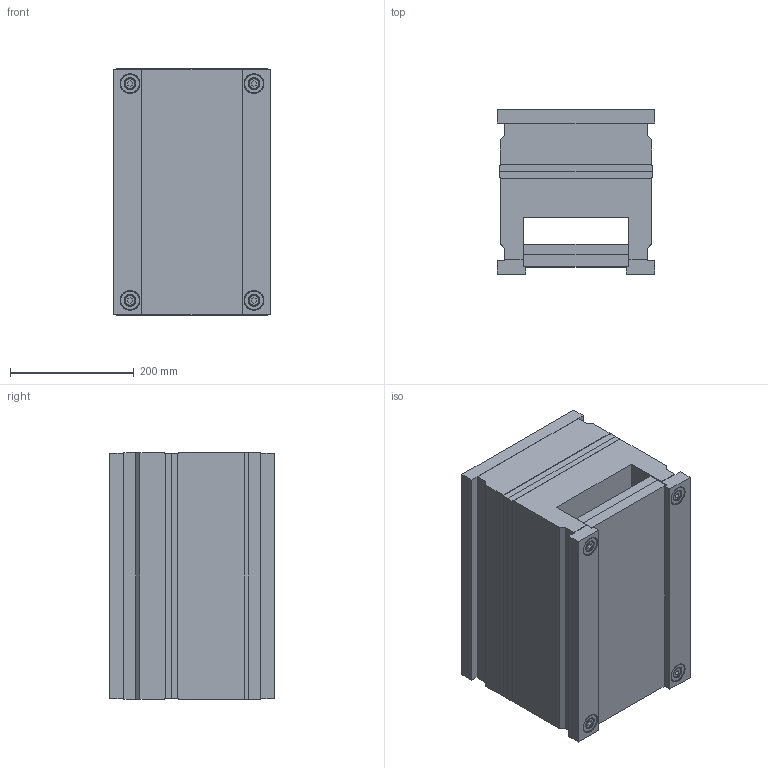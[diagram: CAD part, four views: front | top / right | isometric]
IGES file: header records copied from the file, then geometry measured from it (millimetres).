
Start section: SolidWorks IGES FILE using analytic representation for surfaces
Global section: file name: C:\Documents and Settings\K.P\My Documents\Mechanical\ALMO\CATL_EUR\RECT\2464.IGS; native system: SolidWorks 2001Plus by SolidWorks Corporation; preprocessor: Version 5.3; author: Pavel; date: 020709.092347; units: millimetre
Bounding box: 255 x 266 x 398 mm (x, y, z)
Surface area: 1302201.9 mm2 (no closed solid volume)
Topology: 0 solids, 0 shells, 706 faces, 11944 edges, 11936 vertices
Faces by surface type: revolution 452, bspline 254
